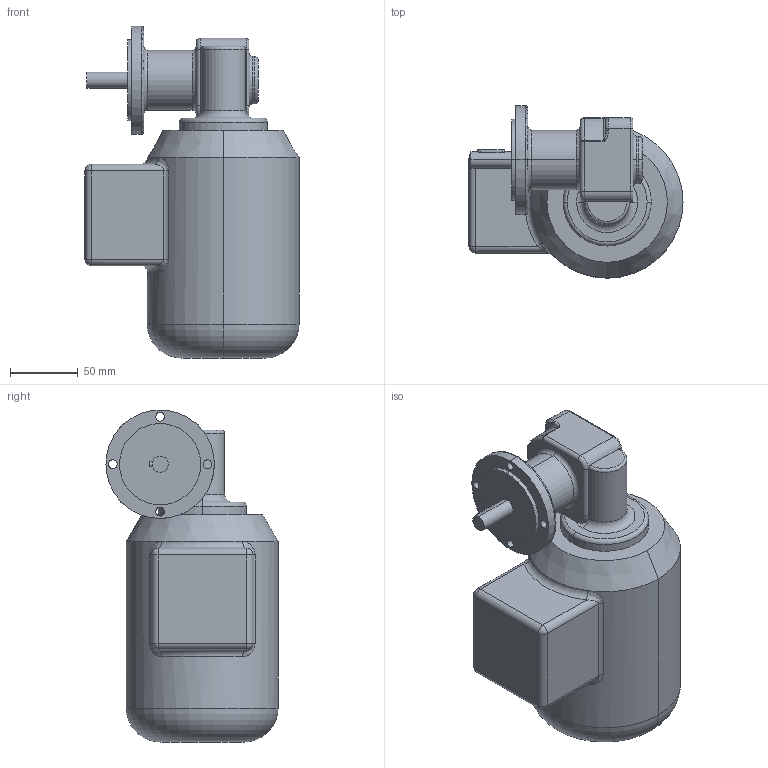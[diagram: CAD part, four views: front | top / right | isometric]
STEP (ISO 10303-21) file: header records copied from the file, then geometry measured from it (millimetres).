
FILE_DESCRIPTION (( 'STEP AP203' ), '1' );
FILE_NAME ('SN5FL-90,120W-D.STEP', '2007-09-13T06:14:04', ( ' ' ), ( ' ' ), 'SwSTEP 2.0', 'SolidWorks 2006233', '' );
FILE_SCHEMA (( 'CONFIG_CONTROL_DESIGN' ));
Length unit declared in the file: millimetre
Products named in the file (3): SN5FL-90,120W-D; BG56of_Standard; SN5FL_Standard
Assembly tree (2 placements, depth 2):
  SN5FL-90,120W-D
    BG56of_Standard
    SN5FL_Standard
Bounding box: 158 x 127 x 245 mm (x, y, z)
Volume: 2171942.6 mm3; surface area: 125197.3 mm2
Topology: 2 solids, 2 shells, 140 faces, 325 edges, 183 vertices
Faces by surface type: cylinder 60, torus 35, plane 27, bspline 12, sphere 4, cone 2
Entity records: 5447 total; most frequent: CARTESIAN_POINT 2016, DIRECTION 710, ORIENTED_EDGE 634, EDGE_CURVE 317, AXIS2_PLACEMENT_3D 305, VERTEX_POINT 183, CIRCLE 172, EDGE_LOOP 150
